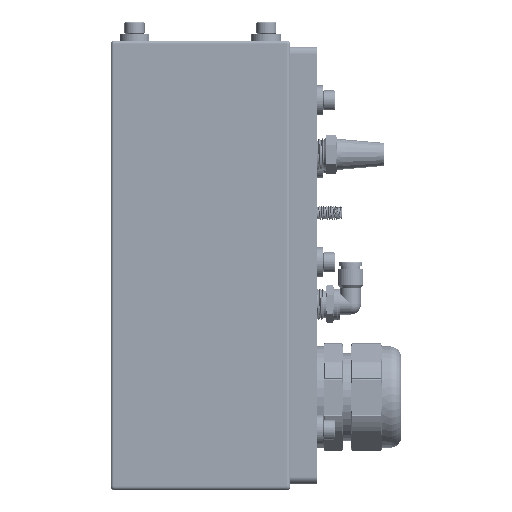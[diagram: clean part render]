
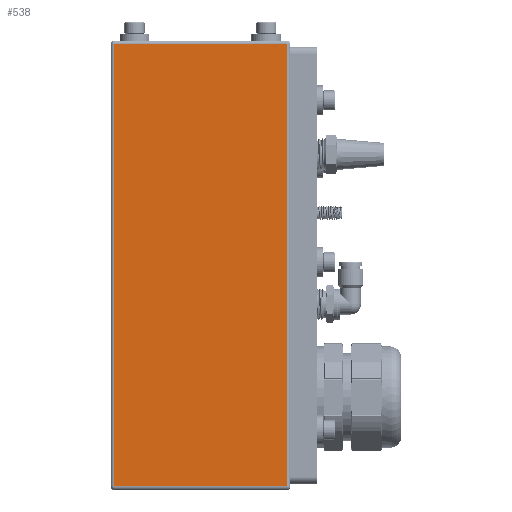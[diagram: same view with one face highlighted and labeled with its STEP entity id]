
A CAD part, left-side view. The second image highlights one B-rep face of the part: STEP entity #538.
In plain terms, the highlighted planar face has unit normal (-1, 0, 0).
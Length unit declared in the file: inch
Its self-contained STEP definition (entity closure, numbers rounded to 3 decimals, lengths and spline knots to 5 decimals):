
#538 = ADVANCED_FACE ( 'NONE', ( #43857 ), #43603, .F. ) ;
#1978 = EDGE_CURVE ( 'NONE', #5358, #25477, #34122, .T. ) ;
#5308 = DIRECTION ( 'NONE',  ( 0., 0., -1. ) ) ;
#5358 = VERTEX_POINT ( 'NONE', #7311 ) ;
#7311 = CARTESIAN_POINT ( 'NONE',  ( -1.5, 2.94, -0.06 ) ) ;
#8716 = EDGE_CURVE ( 'NONE', #25477, #24318, #14528, .T. ) ;
#8876 = VECTOR ( 'NONE', #5308, 39.37008 ) ;
#12115 = CARTESIAN_POINT ( 'NONE',  ( -1.5, 0.06, -0.06 ) ) ;
#12329 = AXIS2_PLACEMENT_3D ( 'NONE', #52228, #31707, #26889 ) ;
#14528 = LINE ( 'NONE', #30957, #41367 ) ;
#14785 = ORIENTED_EDGE ( 'NONE', *, *, #45403, .T. ) ;
#16255 = EDGE_LOOP ( 'NONE', ( #44170, #45752, #26899, #14785 ) ) ;
#24318 = VERTEX_POINT ( 'NONE', #24411 ) ;
#24411 = CARTESIAN_POINT ( 'NONE',  ( -1.5, 0.06, -7.44 ) ) ;
#25477 = VERTEX_POINT ( 'NONE', #30949 ) ;
#26889 = DIRECTION ( 'NONE',  ( 0., 0., -1. ) ) ;
#26899 = ORIENTED_EDGE ( 'NONE', *, *, #32324, .T. ) ;
#27283 = LINE ( 'NONE', #36420, #52724 ) ;
#30949 = CARTESIAN_POINT ( 'NONE',  ( -1.5, 2.94, -7.44 ) ) ;
#30957 = CARTESIAN_POINT ( 'NONE',  ( -1.5, 3., -7.44 ) ) ;
#31189 = DIRECTION ( 'NONE',  ( 0., 0., 1. ) ) ;
#31707 = DIRECTION ( 'NONE',  ( 1., 0., 0. ) ) ;
#32324 = EDGE_CURVE ( 'NONE', #24318, #52846, #35488, .T. ) ;
#34122 = LINE ( 'NONE', #42755, #8876 ) ;
#35208 = CARTESIAN_POINT ( 'NONE',  ( -1.5, 0.06, -7.5 ) ) ;
#35488 = LINE ( 'NONE', #35208, #43068 ) ;
#36420 = CARTESIAN_POINT ( 'NONE',  ( -1.5, 3., -0.06 ) ) ;
#41367 = VECTOR ( 'NONE', #46624, 39.37008 ) ;
#42755 = CARTESIAN_POINT ( 'NONE',  ( -1.5, 2.94, -7.5 ) ) ;
#43068 = VECTOR ( 'NONE', #31189, 39.37008 ) ;
#43603 = PLANE ( 'NONE',  #12329 ) ;
#43857 = FACE_OUTER_BOUND ( 'NONE', #16255, .T. ) ;
#44170 = ORIENTED_EDGE ( 'NONE', *, *, #1978, .T. ) ;
#44266 = DIRECTION ( 'NONE',  ( 0., 1., 0. ) ) ;
#45403 = EDGE_CURVE ( 'NONE', #52846, #5358, #27283, .T. ) ;
#45752 = ORIENTED_EDGE ( 'NONE', *, *, #8716, .T. ) ;
#46624 = DIRECTION ( 'NONE',  ( 0., -1., 0. ) ) ;
#52228 = CARTESIAN_POINT ( 'NONE',  ( -1.5, 3., -7.5 ) ) ;
#52724 = VECTOR ( 'NONE', #44266, 39.37008 ) ;
#52846 = VERTEX_POINT ( 'NONE', #12115 ) ;
